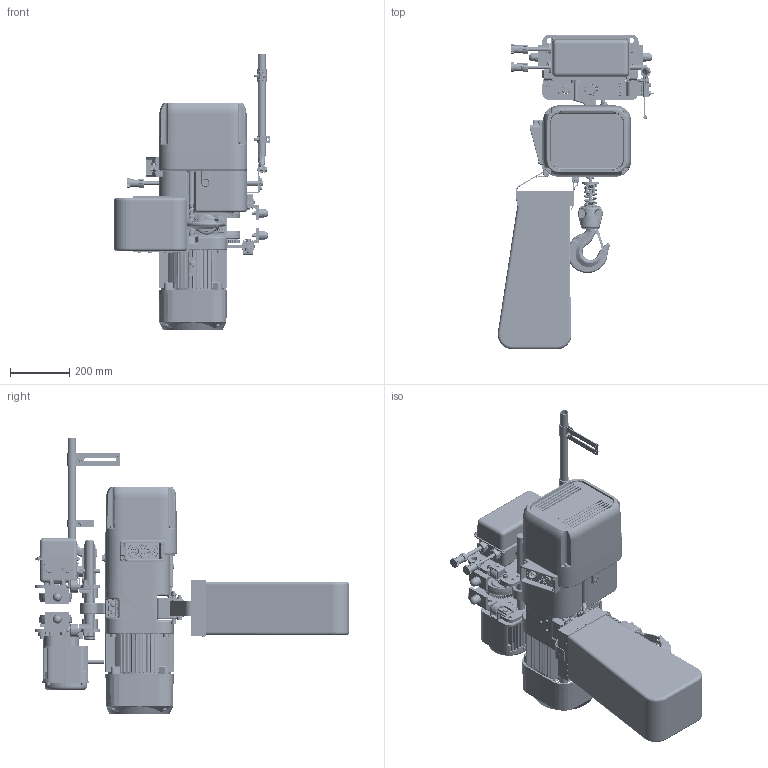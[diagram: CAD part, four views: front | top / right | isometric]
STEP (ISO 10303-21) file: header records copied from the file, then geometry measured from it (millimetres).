
FILE_DESCRIPTION (( 'STEP AP214' ), '1' );
FILE_NAME ('NER2M020SD-L.STEP', '2026-08-07T13:03:42', ( '' ), ( '' ), 'SwSTEP 2.0', 'SolidWorks 2026', '' );
FILE_SCHEMA (( 'AUTOMOTIVE_DESIGN' ));
Length unit declared in the file: inch
Products named in the file (140): KITO-WASHER; MR2DS92171; ECP2304AD; ER1ES9054; MR1DS9492; MS517010; MR1DS93112; ER2ES1011; J1AP2-4001212.SLDASM; ER2EI2564; 9093352_9093352; ER2ES1002; E6F630010S; MR1DS9401_1 - 8 TON & 10 L TON; ER2ES9011; MR1ES9203; ER2EI2104; ER1BS9135; MR1DS9248; ER2ES9186; MS006020; ECP5924AC1; MR1ES12112; LCER2020NP_8 LINKS; ER2EI9104_ER2EI9104; LCER2020NP; MR1DS9481; MS1102020; ER2ES9331; E3S111003; 90912104_ 90912104; ER2EI9185_ER2EI9185; 6077801; NER2M020SD-L; 9012513; MR1ES9131; MR1DS9491; ES558003; ER2ES9015; E3S112003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
Assembly tree (329 placements, depth 6):
  NER2M020SD-L
    MR2020L_4" FLANGE
      MR1ES5202
        MR1ES9202
        MR1ES9203  x2
        MR1ES9205
      MSF115020
      MS1101020  x2
        M6SE020S91013
        6304Z Bearing
        9047252_9047252
      MR1ES5201
        MR1ES9201
        MR1ES9203  x2
        MR1ES9204
      MS1102020  x2
        M6SE020S9102
        6304Z Bearing
        9047252_9047252
      MS006020  x4
      MR1ES12112  x2
        M7SE020S91422
        J1PS31-050025
        MR1ES22111
        MR2DS92171
        MR1ES92151
        MR1ES9218
      MR1ES12112_Reversed  x2
        M7SE020S91422
        J1PS31-050025
        MR1ES22111
        MR2DS92171
        MR1ES92151
        MR1ES9218
      9093351_9093351  x4
      spring lock washer_2_jis_9012712  x14
      9093427_9093427  x12
      MR1ES9634  x4
      9093352_9093352  x8
      MR1DS9631  x4
      single coil rectangular section spring washer_bsi_9012711  x8
      hex nut style 1_am_9093424  x4
      MS161020
      MS164020  x2
      9009432_9009432  x2
      MR1ES9131
      9009446_9009446  x2
      socket head cap screw_am_9091295  x2
      MR1DS1491
        MR1DS9491
        MR1DS9492
        MR1DS9501
        MR1DS1493
          MR1DS9493
          single coil rectangular section spring washer_bsi_9012711
          M6F554010  x2
          MR1DS9496
          hex nut style 1_am_9093424
          hex cap screw_am_9093329
        MR1DS1481
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Bounding box: 527.64 x 1060.55 x 929.32 mm (x, y, z)
Volume: 49446657.8 mm3; surface area: 5043977.5 mm2
Topology: 365 solids, 382 shells, 15708 faces, 39843 edges, 24993 vertices
Faces by surface type: plane 6849, cylinder 5034, cone 1358, bspline 1170, torus 941, sphere 356
Entity records: 382762 total; most frequent: CARTESIAN_POINT 147075, ORIENTED_EDGE 47710, DIRECTION 47066, EDGE_CURVE 23857, AXIS2_PLACEMENT_3D 18129, VERTEX_POINT 15007, VECTOR 10808, LINE 10808
